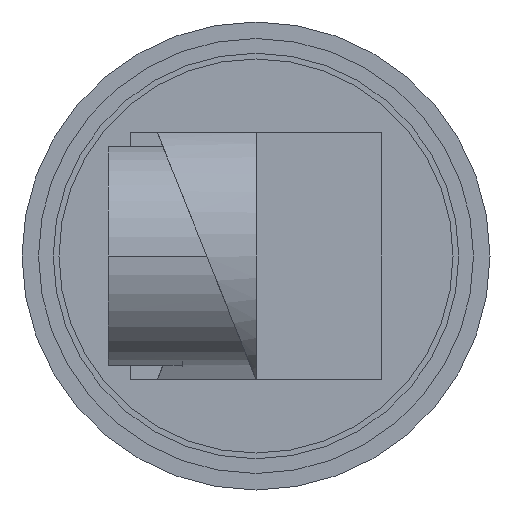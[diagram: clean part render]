
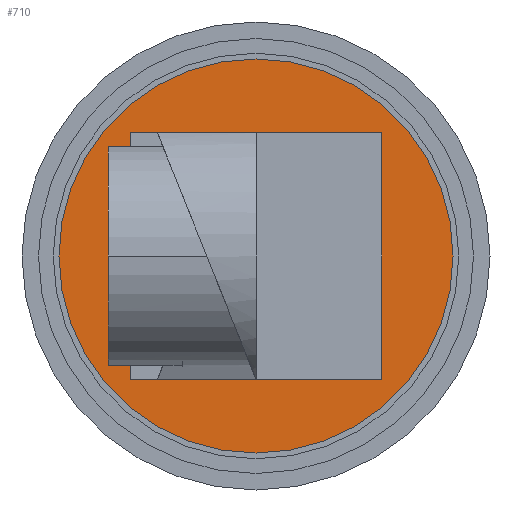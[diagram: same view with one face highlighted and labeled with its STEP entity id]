
A CAD part, left-side view. The second image highlights one B-rep face of the part: STEP entity #710.
In plain terms, the highlighted planar face has unit normal (-1, 0, 0) as drawn and (0, -1, 0) by its records, which use the part's own axes.
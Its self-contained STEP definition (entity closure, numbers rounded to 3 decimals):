
#123 = CARTESIAN_POINT ( 'NONE',  ( 0., 0., 4. ) ) ;
#345 = EDGE_CURVE ( 'NONE', #1083, #3360, #939, .T. ) ;
#354 = CIRCLE ( 'NONE', #2127, 4. ) ;
#405 = DIRECTION ( 'NONE',  ( 0., 1., 0. ) ) ;
#455 = DIRECTION ( 'NONE',  ( 0., 0., 1. ) ) ;
#514 = FACE_OUTER_BOUND ( 'NONE', #1272, .T. ) ;
#709 = DIRECTION ( 'NONE',  ( 0., -1., 0. ) ) ;
#710 = ADVANCED_FACE ( 'NONE', ( #2022, #514 ), #3212, .F. ) ;
#832 = CARTESIAN_POINT ( 'NONE',  ( 0., 0., 0. ) ) ;
#939 = CIRCLE ( 'NONE', #1452, 1.25 ) ;
#1083 = VERTEX_POINT ( 'NONE', #2252 ) ;
#1091 = CARTESIAN_POINT ( 'NONE',  ( 0., 0., -4. ) ) ;
#1125 = EDGE_CURVE ( 'NONE', #2166, #1616, #3740, .T. ) ;
#1151 = ORIENTED_EDGE ( 'NONE', *, *, #345, .F. ) ;
#1152 = DIRECTION ( 'NONE',  ( 0., 0., 1. ) ) ;
#1272 = EDGE_LOOP ( 'NONE', ( #3129, #3833 ) ) ;
#1367 = AXIS2_PLACEMENT_3D ( 'NONE', #2213, #709, #3125 ) ;
#1412 = EDGE_CURVE ( 'NONE', #1616, #2166, #354, .T. ) ;
#1452 = AXIS2_PLACEMENT_3D ( 'NONE', #3472, #3156, #1651 ) ;
#1476 = EDGE_CURVE ( 'NONE', #3360, #1083, #2569, .T. ) ;
#1616 = VERTEX_POINT ( 'NONE', #1091 ) ;
#1617 = CARTESIAN_POINT ( 'NONE',  ( 0., 0., 0. ) ) ;
#1651 = DIRECTION ( 'NONE',  ( 0., 0., -1. ) ) ;
#1941 = DIRECTION ( 'NONE',  ( 0., 1., 0. ) ) ;
#2022 = FACE_BOUND ( 'NONE', #3867, .T. ) ;
#2031 = AXIS2_PLACEMENT_3D ( 'NONE', #832, #2980, #1152 ) ;
#2127 = AXIS2_PLACEMENT_3D ( 'NONE', #3133, #1941, #455 ) ;
#2166 = VERTEX_POINT ( 'NONE', #123 ) ;
#2213 = CARTESIAN_POINT ( 'NONE',  ( 0., 0., 0. ) ) ;
#2252 = CARTESIAN_POINT ( 'NONE',  ( 0., 0., -1.25 ) ) ;
#2569 = CIRCLE ( 'NONE', #1367, 1.25 ) ;
#2980 = DIRECTION ( 'NONE',  ( 0., 1., 0. ) ) ;
#3009 = CARTESIAN_POINT ( 'NONE',  ( 0., 0., 1.25 ) ) ;
#3122 = DIRECTION ( 'NONE',  ( 0., 0., 1. ) ) ;
#3125 = DIRECTION ( 'NONE',  ( 0., 0., -1. ) ) ;
#3129 = ORIENTED_EDGE ( 'NONE', *, *, #1412, .F. ) ;
#3133 = CARTESIAN_POINT ( 'NONE',  ( 0., 0., 0. ) ) ;
#3137 = ORIENTED_EDGE ( 'NONE', *, *, #1476, .F. ) ;
#3156 = DIRECTION ( 'NONE',  ( 0., -1., 0. ) ) ;
#3212 = PLANE ( 'NONE',  #2031 ) ;
#3360 = VERTEX_POINT ( 'NONE', #3009 ) ;
#3472 = CARTESIAN_POINT ( 'NONE',  ( 0., 0., 0. ) ) ;
#3740 = CIRCLE ( 'NONE', #3806, 4. ) ;
#3806 = AXIS2_PLACEMENT_3D ( 'NONE', #1617, #405, #3122 ) ;
#3833 = ORIENTED_EDGE ( 'NONE', *, *, #1125, .F. ) ;
#3867 = EDGE_LOOP ( 'NONE', ( #3137, #1151 ) ) ;
